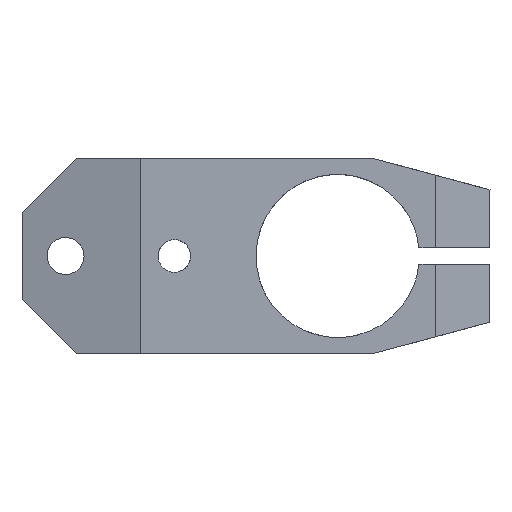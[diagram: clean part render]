
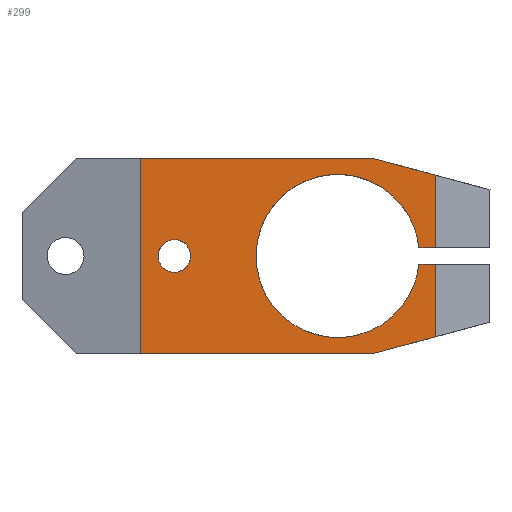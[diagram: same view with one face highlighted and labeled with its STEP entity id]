
A CAD part, front view. The second image highlights one B-rep face of the part: STEP entity #299.
In plain terms, the highlighted planar face has unit normal (0, -1, 0).
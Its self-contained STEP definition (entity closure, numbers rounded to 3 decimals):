
#61=CARTESIAN_POINT('Vertex',(-32.633,-18.,-1.438)) ;
#67=CARTESIAN_POINT('Control Point',(-32.633,-18.,-1.438)) ;
#68=CARTESIAN_POINT('Control Point',(-32.181,-18.,-2.265)) ;
#69=CARTESIAN_POINT('Control Point',(-31.404,-18.,-2.915)) ;
#70=CARTESIAN_POINT('Control Point',(-30.393,-18.,-3.212)) ;
#71=CARTESIAN_POINT('Control Point',(-28.384,-18.,-2.958)) ;
#72=CARTESIAN_POINT('Control Point',(-27.085,-18.,-1.404)) ;
#73=CARTESIAN_POINT('Control Point',(-26.788,-18.,-0.393)) ;
#74=CARTESIAN_POINT('Control Point',(-26.915,-18.,0.611)) ;
#75=CARTESIAN_POINT('Control Point',(-27.367,-18.,1.438)) ;
#76=CARTESIAN_POINT('Vertex',(-27.367,-18.,1.438)) ;
#118=CARTESIAN_POINT('Axis2P3D Location',(-30.,-18.,0.)) ;
#150=CARTESIAN_POINT('Axis2P3D Location',(0.,-18.,0.)) ;
#155=CARTESIAN_POINT('Line Origine',(16.462,-18.,-1.5)) ;
#159=CARTESIAN_POINT('Vertex',(14.925,-18.,-1.5)) ;
#161=CARTESIAN_POINT('Vertex',(18.,-18.,-1.5)) ;
#165=CARTESIAN_POINT('Control Point',(-13.164,-18.,-7.191)) ;
#166=CARTESIAN_POINT('Control Point',(-12.436,-18.,-8.523)) ;
#167=CARTESIAN_POINT('Control Point',(-11.54,-18.,-9.763)) ;
#168=CARTESIAN_POINT('Control Point',(-10.491,-18.,-10.883)) ;
#169=CARTESIAN_POINT('Control Point',(-8.132,-18.,-12.832)) ;
#170=CARTESIAN_POINT('Control Point',(-5.362,-18.,-14.133)) ;
#171=CARTESIAN_POINT('Control Point',(-3.902,-18.,-14.604)) ;
#172=CARTESIAN_POINT('Control Point',(-0.894,-18.,-15.166)) ;
#173=CARTESIAN_POINT('Control Point',(2.159,-18.,-14.961)) ;
#174=CARTESIAN_POINT('Control Point',(3.665,-18.,-14.665)) ;
#175=CARTESIAN_POINT('Control Point',(6.568,-18.,-13.699)) ;
#176=CARTESIAN_POINT('Control Point',(9.14,-18.,-12.04)) ;
#177=CARTESIAN_POINT('Control Point',(10.313,-18.,-11.051)) ;
#178=CARTESIAN_POINT('Control Point',(12.384,-18.,-8.799)) ;
#179=CARTESIAN_POINT('Control Point',(13.83,-18.,-6.102)) ;
#180=CARTESIAN_POINT('Control Point',(14.377,-18.,-4.668)) ;
#181=CARTESIAN_POINT('Control Point',(14.745,-18.,-3.147)) ;
#182=CARTESIAN_POINT('Control Point',(14.914,-18.,-1.604)) ;
#183=CARTESIAN_POINT('Control Point',(14.918,-18.,-1.569)) ;
#184=CARTESIAN_POINT('Control Point',(14.921,-18.,-1.535)) ;
#185=CARTESIAN_POINT('Control Point',(14.925,-18.,-1.5)) ;
#186=CARTESIAN_POINT('Vertex',(-13.164,-18.,-7.191)) ;
#190=CARTESIAN_POINT('Control Point',(13.164,-18.,7.191)) ;
#191=CARTESIAN_POINT('Control Point',(12.436,-18.,8.523)) ;
#192=CARTESIAN_POINT('Control Point',(11.54,-18.,9.763)) ;
#193=CARTESIAN_POINT('Control Point',(10.491,-18.,10.883)) ;
#194=CARTESIAN_POINT('Control Point',(8.132,-18.,12.832)) ;
#195=CARTESIAN_POINT('Control Point',(5.362,-18.,14.133)) ;
#196=CARTESIAN_POINT('Control Point',(3.902,-18.,14.604)) ;
#197=CARTESIAN_POINT('Control Point',(0.894,-18.,15.166)) ;
#198=CARTESIAN_POINT('Control Point',(-2.159,-18.,14.961)) ;
#199=CARTESIAN_POINT('Control Point',(-3.665,-18.,14.665)) ;
#200=CARTESIAN_POINT('Control Point',(-6.568,-18.,13.699)) ;
#201=CARTESIAN_POINT('Control Point',(-9.14,-18.,12.04)) ;
#202=CARTESIAN_POINT('Control Point',(-10.313,-18.,11.051)) ;
#203=CARTESIAN_POINT('Control Point',(-12.384,-18.,8.799)) ;
#204=CARTESIAN_POINT('Control Point',(-13.83,-18.,6.102)) ;
#205=CARTESIAN_POINT('Control Point',(-14.377,-18.,4.668)) ;
#206=CARTESIAN_POINT('Control Point',(-15.097,-18.,1.694)) ;
#207=CARTESIAN_POINT('Control Point',(-15.054,-18.,-1.365)) ;
#208=CARTESIAN_POINT('Control Point',(-14.838,-18.,-2.884)) ;
#209=CARTESIAN_POINT('Control Point',(-14.348,-18.,-4.668)) ;
#210=CARTESIAN_POINT('Control Point',(-13.598,-18.,-6.344)) ;
#211=CARTESIAN_POINT('Control Point',(-13.461,-18.,-6.63)) ;
#212=CARTESIAN_POINT('Control Point',(-13.316,-18.,-6.913)) ;
#213=CARTESIAN_POINT('Control Point',(-13.164,-18.,-7.191)) ;
#214=CARTESIAN_POINT('Vertex',(13.164,-18.,7.191)) ;
#218=CARTESIAN_POINT('Control Point',(14.925,-18.,1.5)) ;
#219=CARTESIAN_POINT('Control Point',(14.805,-18.,2.693)) ;
#220=CARTESIAN_POINT('Control Point',(14.566,-18.,3.875)) ;
#221=CARTESIAN_POINT('Control Point',(14.209,-18.,5.029)) ;
#222=CARTESIAN_POINT('Control Point',(13.739,-18.,6.139)) ;
#223=CARTESIAN_POINT('Control Point',(13.164,-18.,7.191)) ;
#224=CARTESIAN_POINT('Vertex',(14.925,-18.,1.5)) ;
#227=CARTESIAN_POINT('Line Origine',(16.462,-18.,1.5)) ;
#231=CARTESIAN_POINT('Vertex',(18.,-18.,1.5)) ;
#234=CARTESIAN_POINT('Line Origine',(18.,-18.,8.174)) ;
#238=CARTESIAN_POINT('Vertex',(18.,-18.,14.847)) ;
#241=CARTESIAN_POINT('Line Origine',(12.117,-18.,16.424)) ;
#245=CARTESIAN_POINT('Vertex',(6.233,-18.,18.)) ;
#248=CARTESIAN_POINT('Line Origine',(-15.,-18.,18.)) ;
#252=CARTESIAN_POINT('Vertex',(-36.233,-18.,18.)) ;
#255=CARTESIAN_POINT('Line Origine',(-36.233,-18.,0.)) ;
#259=CARTESIAN_POINT('Vertex',(-36.233,-18.,-18.)) ;
#262=CARTESIAN_POINT('Line Origine',(-15.,-18.,-18.)) ;
#266=CARTESIAN_POINT('Vertex',(6.233,-18.,-18.)) ;
#269=CARTESIAN_POINT('Line Origine',(12.117,-18.,-16.424)) ;
#273=CARTESIAN_POINT('Vertex',(18.,-18.,-14.847)) ;
#276=CARTESIAN_POINT('Line Origine',(18.,-18.,-8.174)) ;
#119=DIRECTION('Axis2P3D Direction',(0.,-1.,0.)) ;
#151=DIRECTION('Axis2P3D Direction',(0.,1.,-0.)) ;
#152=DIRECTION('Axis2P3D XDirection',(-1.,0.,0.)) ;
#156=DIRECTION('Vector Direction',(1.,0.,0.)) ;
#228=DIRECTION('Vector Direction',(1.,0.,0.)) ;
#235=DIRECTION('Vector Direction',(0.,0.,-1.)) ;
#242=DIRECTION('Vector Direction',(-0.966,0.,0.259)) ;
#249=DIRECTION('Vector Direction',(-1.,0.,0.)) ;
#256=DIRECTION('Vector Direction',(0.,0.,-1.)) ;
#263=DIRECTION('Vector Direction',(1.,0.,0.)) ;
#270=DIRECTION('Vector Direction',(-0.966,0.,-0.259)) ;
#277=DIRECTION('Vector Direction',(0.,0.,-1.)) ;
#120=AXIS2_PLACEMENT_3D('Circle Axis2P3D',#118,#119,$) ;
#153=AXIS2_PLACEMENT_3D('Plane Axis2P3D',#150,#151,#152) ;
#282=ORIENTED_EDGE('',*,*,#163,.F.) ;
#283=ORIENTED_EDGE('',*,*,#188,.T.) ;
#284=ORIENTED_EDGE('',*,*,#216,.T.) ;
#285=ORIENTED_EDGE('',*,*,#226,.T.) ;
#286=ORIENTED_EDGE('',*,*,#233,.T.) ;
#287=ORIENTED_EDGE('',*,*,#240,.F.) ;
#288=ORIENTED_EDGE('',*,*,#247,.T.) ;
#289=ORIENTED_EDGE('',*,*,#254,.F.) ;
#290=ORIENTED_EDGE('',*,*,#261,.T.) ;
#291=ORIENTED_EDGE('',*,*,#268,.F.) ;
#292=ORIENTED_EDGE('',*,*,#275,.F.) ;
#293=ORIENTED_EDGE('',*,*,#280,.F.) ;
#296=ORIENTED_EDGE('',*,*,#78,.T.) ;
#297=ORIENTED_EDGE('',*,*,#122,.T.) ;
#298=FACE_BOUND('',#295,.T.) ;
#157=VECTOR('Line Direction',#156,1.) ;
#229=VECTOR('Line Direction',#228,1.) ;
#236=VECTOR('Line Direction',#235,1.) ;
#243=VECTOR('Line Direction',#242,1.) ;
#250=VECTOR('Line Direction',#249,1.) ;
#257=VECTOR('Line Direction',#256,1.) ;
#264=VECTOR('Line Direction',#263,1.) ;
#271=VECTOR('Line Direction',#270,1.) ;
#278=VECTOR('Line Direction',#277,1.) ;
#299=ADVANCED_FACE('\X2\96F64EF651E04F554F53\X0\',(#294,#298),#154,.F.) ;
#66=B_SPLINE_CURVE_WITH_KNOTS('',5,(#67,#68,#69,#70,#71,#72,#73,#74,#75),.UNSPECIFIED.,.F.,.U.,(6,3,6),(-4.712,0.,4.712),.UNSPECIFIED.) ;
#164=B_SPLINE_CURVE_WITH_KNOTS('',5,(#165,#166,#167,#168,#169,#170,#171,#172,#173,#174,#175,#176,#177,#178,#179,#180,#181,#182,#183,#184,#185),.UNSPECIFIED.,.F.,.U.,(6,3,3,3,3,3,6),(0.,10.733,21.466,32.199,42.932,53.665,53.911),.UNSPECIFIED.) ;
#189=B_SPLINE_CURVE_WITH_KNOTS('',5,(#190,#191,#192,#193,#194,#195,#196,#197,#198,#199,#200,#201,#202,#203,#204,#205,#206,#207,#208,#209,#210,#211,#212,#213),.UNSPECIFIED.,.F.,.U.,(6,3,3,3,3,3,3,6),(0.,10.733,21.466,32.199,42.932,53.665,64.398,66.642),.UNSPECIFIED.) ;
#217=B_SPLINE_CURVE_WITH_KNOTS('',5,(#218,#219,#220,#221,#222,#223),.UNSPECIFIED.,.F.,.U.,(6,6),(0.,8.482),.UNSPECIFIED.) ;
#121=CIRCLE('generated circle',#120,3.) ;
#78=EDGE_CURVE('',#77,#62,#66,.F.) ;
#122=EDGE_CURVE('',#62,#77,#121,.F.) ;
#163=EDGE_CURVE('',#160,#162,#158,.T.) ;
#188=EDGE_CURVE('',#160,#187,#164,.F.) ;
#216=EDGE_CURVE('',#187,#215,#189,.F.) ;
#226=EDGE_CURVE('',#215,#225,#217,.F.) ;
#233=EDGE_CURVE('',#225,#232,#230,.T.) ;
#240=EDGE_CURVE('',#239,#232,#237,.T.) ;
#247=EDGE_CURVE('',#239,#246,#244,.T.) ;
#254=EDGE_CURVE('',#253,#246,#251,.F.) ;
#261=EDGE_CURVE('',#253,#260,#258,.T.) ;
#268=EDGE_CURVE('',#267,#260,#265,.F.) ;
#275=EDGE_CURVE('',#274,#267,#272,.T.) ;
#280=EDGE_CURVE('',#162,#274,#279,.T.) ;
#281=EDGE_LOOP('',(#282,#283,#284,#285,#286,#287,#288,#289,#290,#291,#292,#293)) ;
#295=EDGE_LOOP('',(#296,#297)) ;
#294=FACE_OUTER_BOUND('',#281,.T.) ;
#158=LINE('Line',#155,#157) ;
#230=LINE('Line',#227,#229) ;
#237=LINE('Line',#234,#236) ;
#244=LINE('Line',#241,#243) ;
#251=LINE('Line',#248,#250) ;
#258=LINE('Line',#255,#257) ;
#265=LINE('Line',#262,#264) ;
#272=LINE('Line',#269,#271) ;
#279=LINE('Line',#276,#278) ;
#154=PLANE('Plane',#153) ;
#62=VERTEX_POINT('',#61) ;
#77=VERTEX_POINT('',#76) ;
#160=VERTEX_POINT('',#159) ;
#162=VERTEX_POINT('',#161) ;
#187=VERTEX_POINT('',#186) ;
#215=VERTEX_POINT('',#214) ;
#225=VERTEX_POINT('',#224) ;
#232=VERTEX_POINT('',#231) ;
#239=VERTEX_POINT('',#238) ;
#246=VERTEX_POINT('',#245) ;
#253=VERTEX_POINT('',#252) ;
#260=VERTEX_POINT('',#259) ;
#267=VERTEX_POINT('',#266) ;
#274=VERTEX_POINT('',#273) ;
